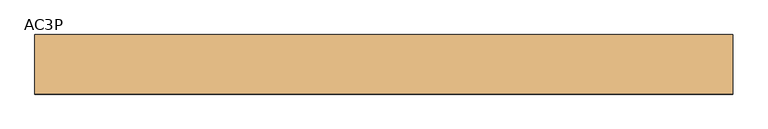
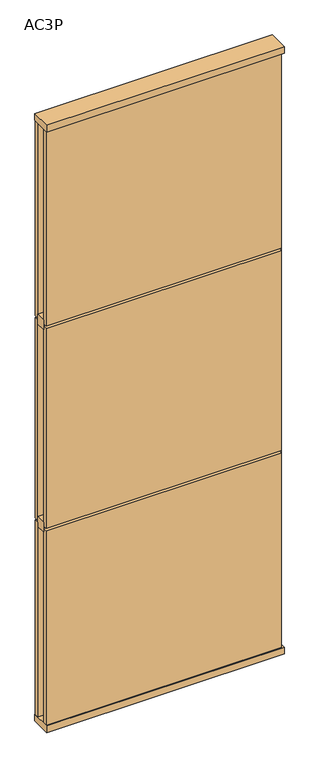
"""IFC4 building model written with IfcOpenShell, lengths in millimetres: door geometry, Mobiliário_Mobiliário de Escritório_Painel Cego - AC3P (Complementar)_Marelli : AC3P."""

from ifc_helpers import new_model, si_unit, frame, origin, origin_with_axes, place, context, project, spatial, polyline, outline, extrude, source, transform, mapped, element, save


def ac3p_97d3eb84(model_context):
    return source(origin(), model_context, "Body", "SweptSolid", [
        extrude(outline(polyline([(500.0, 42.5), (500.0, -42.5), (-500.0, -42.5), (-500.0, 42.5), (500.0, 42.5)])), origin_with_axes(), (0.0, 0.0, 1.0), 30.0),
        extrude(outline(polyline([(490.0, 39.5), (490.0, 21.5), (-500.0, 21.5), (-500.0, 39.5), (490.0, 39.5)])), frame((0.0, 0.0, 30.0), z_axis=(0.0, 0.0, 1.0), x_axis=(1.0, 0.0, 0.0)), (0.0, 0.0, 1.0), 865.0),
        extrude(outline(polyline([(490.0, 21.5), (490.0, -21.5), (-500.0, -21.5), (-500.0, 21.5), (490.0, 21.5)])), frame((0.0, 0.0, 878.5), z_axis=(0.0, 0.0, 1.0), x_axis=(1.0, 0.0, 0.0)), (0.0, 0.0, 1.0), 43.0),
        extrude(outline(polyline([(490.0, -39.5), (-500.0, -39.5), (-500.0, -21.5), (490.0, -21.5), (490.0, -39.5)])), frame((0.0, 0.0, 30.0), z_axis=(0.0, 0.0, 1.0), x_axis=(1.0, 0.0, 0.0)), (0.0, 0.0, 1.0), 865.0),
        extrude(outline(polyline([(500.0, 42.5), (500.0, -42.5), (-500.0, -42.5), (-500.0, 42.5), (500.0, 42.5)])), frame((0.0, 0.0, 2670.0), z_axis=(0.0, 0.0, 1.0), x_axis=(1.0, 0.0, 0.0)), (0.0, 0.0, 1.0), 30.0),
        extrude(outline(polyline([(490.0, 21.5), (490.0, -21.5), (-500.0, -21.5), (-500.0, 21.5), (490.0, 21.5)])), frame((0.0, 0.0, 1778.5), z_axis=(0.0, 0.0, 1.0), x_axis=(1.0, 0.0, 0.0)), (0.0, 0.0, 1.0), 43.0),
        extrude(outline(polyline([(500.0, -21.5), (490.0, -21.5), (490.0, 21.5), (500.0, 21.5), (500.0, -21.5)])), frame((0.0, 0.0, 30.0), z_axis=(0.0, 0.0, 1.0), x_axis=(1.0, 0.0, 0.0)), (0.0, 0.0, 1.0), 2640.0),
        extrude(outline(polyline([(490.0, 39.5), (490.0, 21.5), (-500.0, 21.5), (-500.0, 39.5), (490.0, 39.5)])), frame((0.0, 0.0, 905.0), z_axis=(0.0, 0.0, 1.0), x_axis=(1.0, 0.0, 0.0)), (0.0, 0.0, 1.0), 890.0),
        extrude(outline(polyline([(490.0, -39.5), (-500.0, -39.5), (-500.0, -21.5), (490.0, -21.5), (490.0, -39.5)])), frame((0.0, 0.0, 905.0), z_axis=(0.0, 0.0, 1.0), x_axis=(1.0, 0.0, 0.0)), (0.0, 0.0, 1.0), 890.0),
        extrude(outline(polyline([(490.0, 39.5), (490.0, 21.5), (-500.0, 21.5), (-500.0, 39.5), (490.0, 39.5)])), frame((0.0, 0.0, 1805.0), z_axis=(0.0, 0.0, 1.0), x_axis=(1.0, 0.0, 0.0)), (0.0, 0.0, 1.0), 865.0),
        extrude(outline(polyline([(490.0, -39.5), (-500.0, -39.5), (-500.0, -21.5), (490.0, -21.5), (490.0, -39.5)])), frame((0.0, 0.0, 1805.0), z_axis=(0.0, 0.0, 1.0), x_axis=(1.0, 0.0, 0.0)), (0.0, 0.0, 1.0), 865.0),
    ])


if __name__ == "__main__":
    model = new_model("IFC4")
    model_context = context("Model", 3, world=origin())
    ifc_project = project(units=[si_unit("LENGTHUNIT", "METRE", prefix="MILLI")], contexts=[model_context])
    site = spatial("IfcSite", under=ifc_project)
    building = spatial("IfcBuilding", under=site)
    placement = place(None, origin())
    ac3p_shape = ac3p_97d3eb84(model_context)
    element("IfcDoor", 1, ObjectType="Mobiliário_Mobiliário de Escritório_Painel Cego - AC3P (Complementar)_Marelli : AC3P", at=placement, inside=building, context=model_context, shape_type="MappedRepresentation", body=[
        mapped(ac3p_shape, transform((0.0, 0.0, 0.0), x_axis=(1.0, 0.0, 0.0), y_axis=(0.0, 1.0, 0.0), z_axis=(0.0, 0.0, 1.0))),
    ])
    save(model, "model.ifc")
